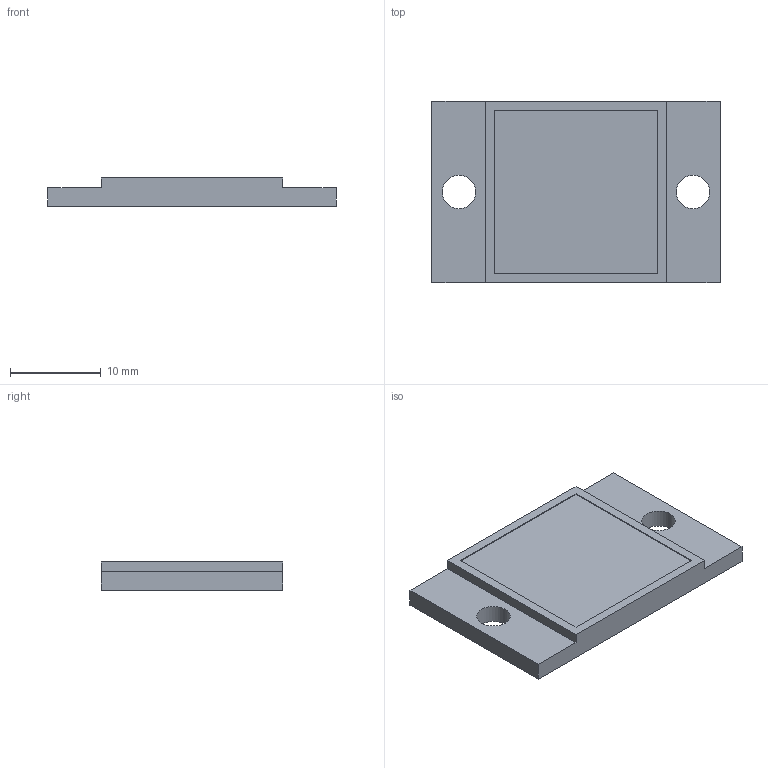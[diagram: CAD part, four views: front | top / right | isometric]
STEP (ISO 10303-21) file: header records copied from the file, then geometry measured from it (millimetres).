
FILE_DESCRIPTION(/* description */ (''),/* implementation_level */ '2;1');
FILE_NAME(/* name */ '3DCAD_MTKS_20x20_SC.stp',/* time_stamp */ '2024-04-22T11:11:15+02:00',/* author */ ('CC2'),/* organization */ ('Leuze electronic'),/* preprocessor_version */ 'ST-DEVELOPER v19.4',/* originating_system */ 'SIEMENS PLM Software NX2306.1700',/* authorisation */ '');
FILE_SCHEMA (('AUTOMOTIVE_DESIGN { 1 0 10303 214 3 1 1 1 }'));
Length unit declared in the file: millimetre
Products named in the file (1): 19-103734_00_1-3DCAD_MTKS_20x20_SC
Bounding box: 31.8 x 20 x 3.1 mm (x, y, z)
Volume: 1604.7 mm3; surface area: 1593.1 mm2
Topology: 1 solids, 1 shells, 209 faces, 558 edges, 372 vertices
Faces by surface type: plane 122, extrusion 47, cylinder 40
Full cylindrical faces by diameter (mm): 3.7 x2
Entity records: 8417 total; most frequent: CARTESIAN_POINT 3326, ORIENTED_EDGE 1112, DIRECTION 883, EDGE_CURVE 556, VECTOR 397, VERTEX_POINT 372, LINE 350, AXIS2_PLACEMENT_3D 243
